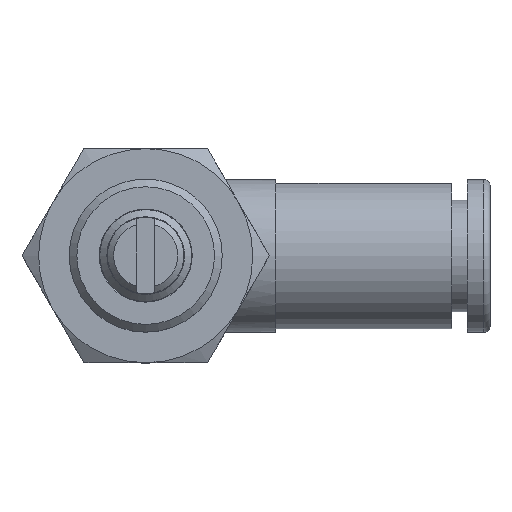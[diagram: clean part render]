
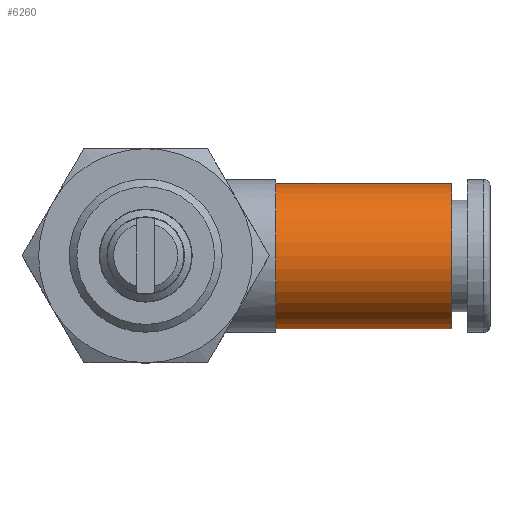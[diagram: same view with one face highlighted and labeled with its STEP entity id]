
A CAD part, top view. The second image highlights one B-rep face of the part: STEP entity #6260.
In plain terms, the highlighted cylindrical face has radius 4.75 mm (diameter 9.5 mm), a full revolution.
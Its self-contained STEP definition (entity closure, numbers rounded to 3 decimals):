
#6260=ADVANCED_FACE('', (#6270,#6280), #6290, .T.);
#18700=AXIS2_PLACEMENT_3D('Ax2Pl3d', #18710, #18720, #18730);
#20020=AXIS2_PLACEMENT_3D('Ax2Pl3d', #20030, #20040, #20050);
#20060=AXIS2_PLACEMENT_3D('Ax2Pl3d', #20070, #20080, #20090);
#18710=CARTESIAN_POINT('HicPkt', (33.025,12.153,
15.112));
#89080=CARTESIAN_POINT('', (33.025,12.153,10.362));
#20030=CARTESIAN_POINT('HicPkt', (21.525,12.153,
15.112));
#89250=CARTESIAN_POINT('', (21.525,12.153,10.362));
#20070=CARTESIAN_POINT('HicPkt', (33.025,12.153,
15.112));
#90680=CIRCLE('Circle', #18700, 4.75);
#90840=CIRCLE('Circle', #20020, 4.75);
#6290=CYLINDRICAL_SURFACE('Zyl', #20060, 4.75);
#18720=DIRECTION('Axis', (1.,0.,0.));
#18730=DIRECTION('RefDirection', (0.,-0.,-1.));
#20040=DIRECTION('Axis', (1.,0.,0.));
#20050=DIRECTION('RefDirection', (0.,-0.,-1.));
#20080=DIRECTION('Axis', (-1.,0.,0.)
);
#20090=DIRECTION('RefDirection', (0.,
0.,-1.));
#102160=EDGE_CURVE('', #102170, #102170, #90680, .T.);
#102510=EDGE_CURVE('', #102520, #102520, #90840, .T.);
#109710=EDGE_LOOP('Edge_loop', (#109720));
#109730=EDGE_LOOP('Edge_loop', (#109740));
#6280=FACE_BOUND('', #109730, .T.);
#6270=FACE_OUTER_BOUND('Face_outer_bound', #109710, .T.);
#109720=ORIENTED_EDGE('', *, *, #102510, .T.);
#109740=ORIENTED_EDGE('', *, *, #102160, .F.);
#102170=VERTEX_POINT('', #89080);
#102520=VERTEX_POINT('', #89250);
